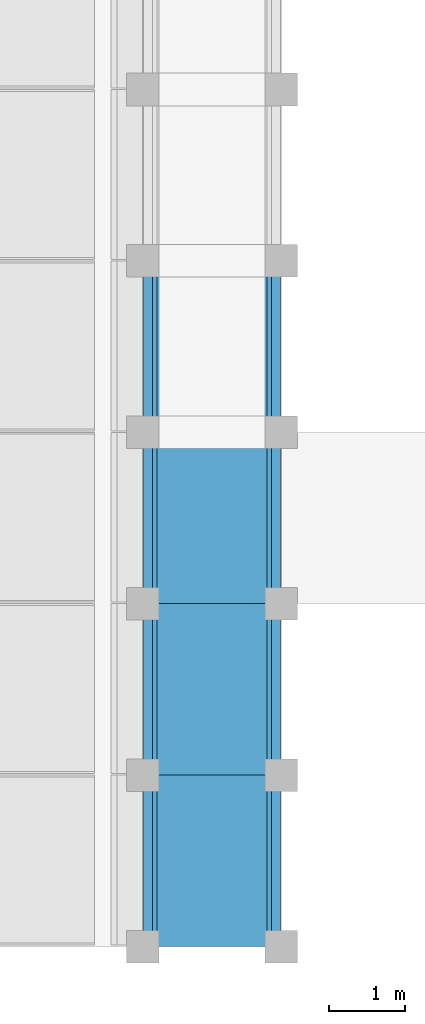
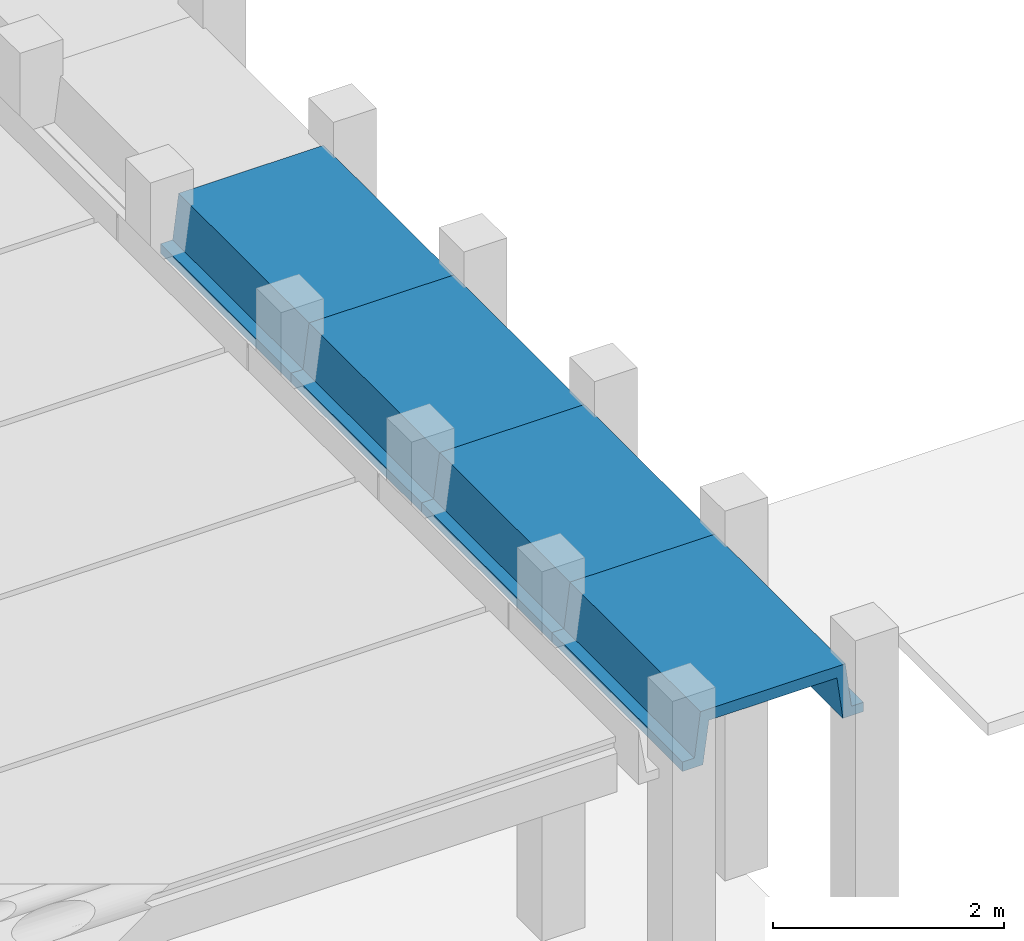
# One storey, part 3 of 21: 4 beams.
"""IFC2X3 building model written with IfcOpenShell, lengths in millimetres."""

from ifc_helpers import new_model, entity, si_unit, converted_unit, derived_unit, direction, frame, origin, place, context, subcontext, project, spatial, polyline, outline, extrude, material, type_object, element, save


model = new_model("IFC2X3")

# Units and contexts
model_context = context("Model", 3, precision=0.01, world=origin(), true_north=direction((6.12303176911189e-17, 1.0)))
body_context = subcontext(model_context, "Body", "Model", "MODEL_VIEW")
ifc_project = project(units=[si_unit("LENGTHUNIT", "METRE", prefix="MILLI"), si_unit("AREAUNIT", "SQUARE_METRE"), si_unit("VOLUMEUNIT", "CUBIC_METRE"), converted_unit("PLANEANGLEUNIT", "DEGREE", entity("IfcRatioMeasure", 0.0174532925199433), si_unit("PLANEANGLEUNIT", "RADIAN"), dimensions=[0, 0, 0, 0, 0, 0, 0]), si_unit("MASSUNIT", "GRAM", prefix="KILO"), derived_unit("MASSDENSITYUNIT", [(si_unit("MASSUNIT", "GRAM", prefix="KILO"), 1), (si_unit("LENGTHUNIT", "METRE"), -3)]), derived_unit("MOMENTOFINERTIAUNIT", [(si_unit("LENGTHUNIT", "METRE"), 4)]), si_unit("TIMEUNIT", "SECOND"), si_unit("FREQUENCYUNIT", "HERTZ"), si_unit("THERMODYNAMICTEMPERATUREUNIT", "DEGREE_CELSIUS"), derived_unit("THERMALTRANSMITTANCEUNIT", [(si_unit("MASSUNIT", "GRAM", prefix="KILO"), 1), (si_unit("THERMODYNAMICTEMPERATUREUNIT", "KELVIN"), -1), (si_unit("TIMEUNIT", "SECOND"), -3)]), derived_unit("VOLUMETRICFLOWRATEUNIT", [(si_unit("LENGTHUNIT", "METRE"), 3), (si_unit("TIMEUNIT", "SECOND"), -1)]), si_unit("ELECTRICCURRENTUNIT", "AMPERE"), si_unit("ELECTRICVOLTAGEUNIT", "VOLT"), si_unit("POWERUNIT", "WATT"), si_unit("FORCEUNIT", "NEWTON", prefix="KILO"), si_unit("ILLUMINANCEUNIT", "LUX"), si_unit("LUMINOUSFLUXUNIT", "LUMEN"), si_unit("LUMINOUSINTENSITYUNIT", "CANDELA"), derived_unit("USERDEFINED", [(si_unit("MASSUNIT", "GRAM", prefix="KILO"), -1), (si_unit("LENGTHUNIT", "METRE"), -2), (si_unit("TIMEUNIT", "SECOND"), 3), (si_unit("LUMINOUSFLUXUNIT", "LUMEN"), 1)]), derived_unit("LINEARVELOCITYUNIT", [(si_unit("LENGTHUNIT", "METRE"), 1), (si_unit("TIMEUNIT", "SECOND"), -1)]), si_unit("PRESSUREUNIT", "PASCAL"), derived_unit("USERDEFINED", [(si_unit("LENGTHUNIT", "METRE"), -2), (si_unit("MASSUNIT", "GRAM", prefix="KILO"), 1), (si_unit("TIMEUNIT", "SECOND"), -2)]), derived_unit("LINEARFORCEUNIT", [(si_unit("MASSUNIT", "GRAM", prefix="KILO"), 1), (si_unit("LENGTHUNIT", "METRE"), 1), (si_unit("TIMEUNIT", "SECOND"), -2), (si_unit("LENGTHUNIT", "METRE"), -1)]), derived_unit("PLANARFORCEUNIT", [(si_unit("MASSUNIT", "GRAM", prefix="KILO"), 1), (si_unit("LENGTHUNIT", "METRE"), 1), (si_unit("TIMEUNIT", "SECOND"), -2), (si_unit("LENGTHUNIT", "METRE"), -2)])], contexts=[model_context])

# Site, building, storey
site_placement = place(None, frame((10627.5135316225, 21939.0796949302, 0.0)))
site = spatial("IfcSite", under=ifc_project, at=site_placement, Name="Default", CompositionType="ELEMENT")
building_placement = place(site_placement, origin())
building = spatial("IfcBuilding", under=site, at=building_placement, CompositionType="ELEMENT")
storey_placement = place(building_placement, frame((0.0, 0.0, 7320.0)))
storey = spatial("IfcBuildingStorey", under=building, at=storey_placement, Name="R+2", CompositionType="ELEMENT", Elevation=7320.0)

# Beams
ifc_material = material(Name="Concrete, Precast Smooth, Light Grey")
beam_type = type_object("IfcBeamType", Name="Poutre petite:Poutre petite", PredefinedType="NOTDEFINED")
for number, where, z_axis, x_axis, name in (
    (1, (667.48646837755, -15159.0796949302, 3530.00034615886), (0.0, 0.0, 1.0), (0.0, 1.0, 0.0), "Poutre petite:Poutre petite"),
    (2, (667.48646837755, -17419.0796949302, 3530.00034615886), (0.0, 0.0, 1.0), (0.0, 1.0, 0.0), "Poutre petite:Poutre petite"),
):
    element("IfcBeam", number, at=place(storey_placement, frame(where, z_axis=z_axis, x_axis=x_axis)), inside=storey, type_object=beam_type, material=ifc_material, Name=name, ObjectType="Poutre petite:Poutre petite", context=body_context, shape_type="SweptSolid", body=[
        extrude(outline(polyline([(103.333217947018, -905.013684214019), (203.333564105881, -905.013684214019), (203.333564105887, -700.013730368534), (-246.666782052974, -640.013684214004), (-246.666782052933, 640.013497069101), (203.333564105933, 700.013543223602), (203.333564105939, 905.014058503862), (103.333217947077, 905.014058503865), (103.333217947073, 785.01349706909), (-366.666782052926, 725.013497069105), (-366.666782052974, -725.013684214), (103.333217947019, -785.013684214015), (103.333217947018, -905.013684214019)])), frame((0.0, -0.000187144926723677, -366.66678205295), z_axis=(1.0, 0.0, 0.0), x_axis=(0.0, 0.0, -1.0)), (0.0, 0.0, 1.0), 2260.0),
    ])
beam_1_placement = place(storey_placement, frame((667.48646837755, -19679.0796949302, 3530.00034615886), z_axis=(0.0, 0.0, 1.0), x_axis=(0.0, 1.0, 0.0)))
element("IfcBeam", 3, at=beam_1_placement, inside=storey, type_object=beam_type, material=ifc_material, Name="Poutre petite:Poutre petite", ObjectType="Poutre petite:Poutre petite", context=body_context, shape_type="SweptSolid", body=[
    extrude(outline(polyline([(103.33321794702, -905.013684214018), (203.333564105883, -905.013684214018), (203.333564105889, -700.013730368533), (-246.666782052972, -640.013684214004), (-246.666782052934, 640.013497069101), (203.333564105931, 700.013543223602), (203.333564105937, 905.014058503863), (103.333217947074, 905.014058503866), (103.333217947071, 785.01349706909), (-366.666782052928, 725.013497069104), (-366.666782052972, -725.013684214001), (103.333217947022, -785.013684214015), (103.33321794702, -905.013684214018)])), frame((0.0, -0.000187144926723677, -366.66678205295), z_axis=(1.0, 0.0, 0.0), x_axis=(0.0, 0.0, -1.0)), (0.0, 0.0, 1.0), 2260.0),
])
beam_2_placement = place(storey_placement, frame((667.48646837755, -21939.0796949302, 3530.00034615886), z_axis=(0.0, 0.0, 1.0), x_axis=(0.0, 1.0, 0.0)))
element("IfcBeam", 4, at=beam_2_placement, inside=storey, type_object=beam_type, material=ifc_material, Name="Poutre petite:Poutre petite", ObjectType="Poutre petite:Poutre petite", context=body_context, shape_type="SweptSolid", body=[
    extrude(outline(polyline([(103.333217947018, -905.013684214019), (203.333564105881, -905.013684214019), (203.333564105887, -700.013730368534), (-246.666782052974, -640.013684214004), (-246.666782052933, 640.013497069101), (203.333564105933, 700.013543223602), (203.333564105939, 905.014058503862), (103.333217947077, 905.014058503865), (103.333217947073, 785.01349706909), (-366.666782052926, 725.013497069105), (-366.666782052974, -725.013684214), (103.333217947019, -785.013684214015), (103.333217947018, -905.013684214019)])), frame((0.0, -0.000187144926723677, -366.66678205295), z_axis=(1.0, 0.0, 0.0), x_axis=(0.0, 0.0, -1.0)), (0.0, 0.0, 1.0), 2260.0),
])

save(model, "model.ifc")
